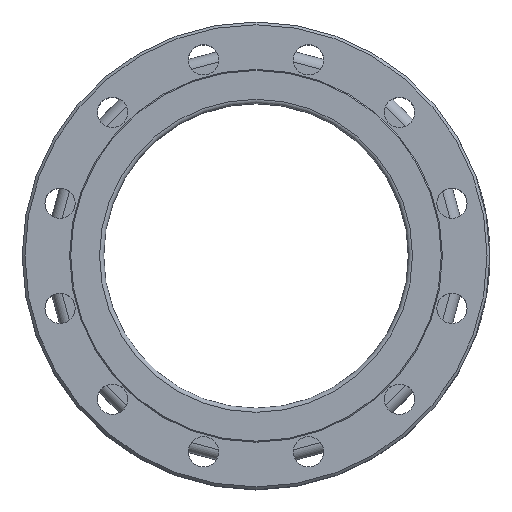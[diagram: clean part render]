
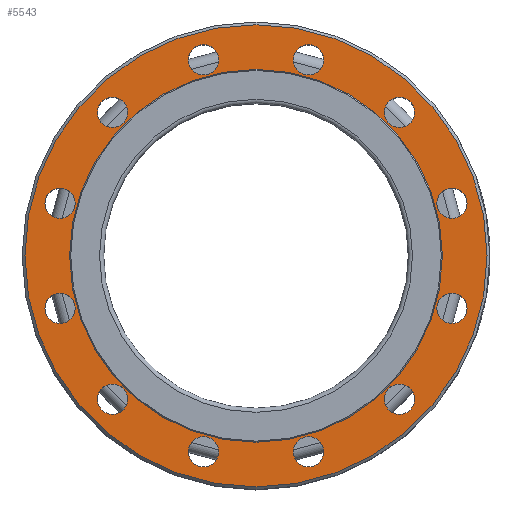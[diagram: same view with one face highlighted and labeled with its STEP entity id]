
A CAD part, top view. The second image highlights one B-rep face of the part: STEP entity #5543.
In plain terms, the highlighted planar face has unit normal (0, 0, 1).
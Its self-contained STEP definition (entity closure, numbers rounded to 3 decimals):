
#1110=FACE_BOUND('',#1738,.T.);
#1111=FACE_BOUND('',#1739,.T.);
#1112=FACE_BOUND('',#1740,.T.);
#1113=FACE_BOUND('',#1741,.T.);
#1114=FACE_BOUND('',#1742,.T.);
#1115=FACE_BOUND('',#1743,.T.);
#1116=FACE_BOUND('',#1744,.T.);
#1117=FACE_BOUND('',#1745,.T.);
#1118=FACE_BOUND('',#1746,.T.);
#1119=FACE_BOUND('',#1747,.T.);
#1120=FACE_BOUND('',#1748,.T.);
#1121=FACE_BOUND('',#1749,.T.);
#1122=FACE_BOUND('',#1750,.T.);
#1410=FACE_OUTER_BOUND('',#1737,.T.);
#1737=EDGE_LOOP('',(#4597));
#1738=EDGE_LOOP('',(#4598));
#1739=EDGE_LOOP('',(#4599));
#1740=EDGE_LOOP('',(#4600));
#1741=EDGE_LOOP('',(#4601));
#1742=EDGE_LOOP('',(#4602));
#1743=EDGE_LOOP('',(#4603));
#1744=EDGE_LOOP('',(#4604));
#1745=EDGE_LOOP('',(#4605));
#1746=EDGE_LOOP('',(#4606));
#1747=EDGE_LOOP('',(#4607));
#1748=EDGE_LOOP('',(#4608));
#1749=EDGE_LOOP('',(#4609));
#1750=EDGE_LOOP('',(#4610));
#2003=CIRCLE('',#5945,168.);
#2004=CIRCLE('',#5948,135.5);
#2005=CIRCLE('',#5949,11.);
#2006=CIRCLE('',#5950,11.);
#2007=CIRCLE('',#5951,11.);
#2008=CIRCLE('',#5952,11.);
#2009=CIRCLE('',#5953,11.);
#2010=CIRCLE('',#5954,11.);
#2011=CIRCLE('',#5955,11.);
#2012=CIRCLE('',#5956,11.);
#2013=CIRCLE('',#5957,11.);
#2014=CIRCLE('',#5958,11.);
#2015=CIRCLE('',#5959,11.);
#2016=CIRCLE('',#5960,11.);
#2529=VERTEX_POINT('',#12015);
#2530=VERTEX_POINT('',#12020);
#2531=VERTEX_POINT('',#12022);
#2532=VERTEX_POINT('',#12024);
#2533=VERTEX_POINT('',#12026);
#2534=VERTEX_POINT('',#12028);
#2535=VERTEX_POINT('',#12030);
#2536=VERTEX_POINT('',#12032);
#2537=VERTEX_POINT('',#12034);
#2538=VERTEX_POINT('',#12036);
#2539=VERTEX_POINT('',#12038);
#2540=VERTEX_POINT('',#12040);
#2541=VERTEX_POINT('',#12042);
#2542=VERTEX_POINT('',#12044);
#3231=EDGE_CURVE('',#2529,#2529,#2003,.T.);
#3233=EDGE_CURVE('',#2530,#2530,#2004,.T.);
#3234=EDGE_CURVE('',#2531,#2531,#2005,.T.);
#3235=EDGE_CURVE('',#2532,#2532,#2006,.T.);
#3236=EDGE_CURVE('',#2533,#2533,#2007,.T.);
#3237=EDGE_CURVE('',#2534,#2534,#2008,.T.);
#3238=EDGE_CURVE('',#2535,#2535,#2009,.T.);
#3239=EDGE_CURVE('',#2536,#2536,#2010,.T.);
#3240=EDGE_CURVE('',#2537,#2537,#2011,.T.);
#3241=EDGE_CURVE('',#2538,#2538,#2012,.T.);
#3242=EDGE_CURVE('',#2539,#2539,#2013,.T.);
#3243=EDGE_CURVE('',#2540,#2540,#2014,.T.);
#3244=EDGE_CURVE('',#2541,#2541,#2015,.T.);
#3245=EDGE_CURVE('',#2542,#2542,#2016,.T.);
#4597=ORIENTED_EDGE('',*,*,#3231,.T.);
#4598=ORIENTED_EDGE('',*,*,#3233,.T.);
#4599=ORIENTED_EDGE('',*,*,#3234,.F.);
#4600=ORIENTED_EDGE('',*,*,#3235,.F.);
#4601=ORIENTED_EDGE('',*,*,#3236,.F.);
#4602=ORIENTED_EDGE('',*,*,#3237,.F.);
#4603=ORIENTED_EDGE('',*,*,#3238,.F.);
#4604=ORIENTED_EDGE('',*,*,#3239,.F.);
#4605=ORIENTED_EDGE('',*,*,#3240,.F.);
#4606=ORIENTED_EDGE('',*,*,#3241,.F.);
#4607=ORIENTED_EDGE('',*,*,#3242,.F.);
#4608=ORIENTED_EDGE('',*,*,#3243,.F.);
#4609=ORIENTED_EDGE('',*,*,#3244,.F.);
#4610=ORIENTED_EDGE('',*,*,#3245,.F.);
#4919=PLANE('',#5947);
#5543=ADVANCED_FACE('',(#1410,#1110,#1111,#1112,#1113,#1114,#1115,#1116,
#1117,#1118,#1119,#1120,#1121,#1122),#4919,.F.);
#5945=AXIS2_PLACEMENT_3D('',#12016,#7037,#7038);
#5947=AXIS2_PLACEMENT_3D('',#12019,#7042,#7043);
#5948=AXIS2_PLACEMENT_3D('',#12021,#7044,#7045);
#5949=AXIS2_PLACEMENT_3D('',#12023,#7046,#7047);
#5950=AXIS2_PLACEMENT_3D('',#12025,#7048,#7049);
#5951=AXIS2_PLACEMENT_3D('',#12027,#7050,#7051);
#5952=AXIS2_PLACEMENT_3D('',#12029,#7052,#7053);
#5953=AXIS2_PLACEMENT_3D('',#12031,#7054,#7055);
#5954=AXIS2_PLACEMENT_3D('',#12033,#7056,#7057);
#5955=AXIS2_PLACEMENT_3D('',#12035,#7058,#7059);
#5956=AXIS2_PLACEMENT_3D('',#12037,#7060,#7061);
#5957=AXIS2_PLACEMENT_3D('',#12039,#7062,#7063);
#5958=AXIS2_PLACEMENT_3D('',#12041,#7064,#7065);
#5959=AXIS2_PLACEMENT_3D('',#12043,#7066,#7067);
#5960=AXIS2_PLACEMENT_3D('',#12045,#7068,#7069);
#7037=DIRECTION('center_axis',(0.,0.,1.));
#7038=DIRECTION('ref_axis',(0.,-1.,0.));
#7042=DIRECTION('center_axis',(0.,0.,-1.));
#7043=DIRECTION('ref_axis',(-1.,0.,0.));
#7044=DIRECTION('center_axis',(0.,0.,-1.));
#7045=DIRECTION('ref_axis',(1.,0.,0.));
#7046=DIRECTION('center_axis',(0.,0.,1.));
#7047=DIRECTION('ref_axis',(-1.,0.,0.));
#7048=DIRECTION('center_axis',(0.,0.,1.));
#7049=DIRECTION('ref_axis',(-1.,0.,0.));
#7050=DIRECTION('center_axis',(0.,0.,1.));
#7051=DIRECTION('ref_axis',(-1.,0.,0.));
#7052=DIRECTION('center_axis',(0.,0.,1.));
#7053=DIRECTION('ref_axis',(-1.,0.,0.));
#7054=DIRECTION('center_axis',(0.,0.,1.));
#7055=DIRECTION('ref_axis',(-1.,0.,0.));
#7056=DIRECTION('center_axis',(0.,0.,1.));
#7057=DIRECTION('ref_axis',(-1.,0.,0.));
#7058=DIRECTION('center_axis',(0.,0.,1.));
#7059=DIRECTION('ref_axis',(-1.,0.,0.));
#7060=DIRECTION('center_axis',(0.,0.,1.));
#7061=DIRECTION('ref_axis',(-1.,0.,0.));
#7062=DIRECTION('center_axis',(0.,0.,1.));
#7063=DIRECTION('ref_axis',(-1.,0.,0.));
#7064=DIRECTION('center_axis',(0.,0.,1.));
#7065=DIRECTION('ref_axis',(-1.,0.,0.));
#7066=DIRECTION('center_axis',(0.,0.,1.));
#7067=DIRECTION('ref_axis',(-1.,0.,0.));
#7068=DIRECTION('center_axis',(0.,0.,1.));
#7069=DIRECTION('ref_axis',(-1.,0.,0.));
#12015=CARTESIAN_POINT('',(0.,168.,70.));
#12016=CARTESIAN_POINT('Origin',(0.,0.,70.));
#12019=CARTESIAN_POINT('Origin',(0.,110.75,70.));
#12020=CARTESIAN_POINT('',(-135.5,0.,70.));
#12021=CARTESIAN_POINT('Origin',(0.,0.,70.));
#12022=CARTESIAN_POINT('',(-93.298,-104.298,70.));
#12023=CARTESIAN_POINT('Origin',(-104.298,-104.298,70.));
#12024=CARTESIAN_POINT('',(49.176,-142.474,70.));
#12025=CARTESIAN_POINT('Origin',(38.176,-142.474,70.));
#12026=CARTESIAN_POINT('',(115.298,104.298,70.));
#12027=CARTESIAN_POINT('Origin',(104.298,104.298,70.));
#12028=CARTESIAN_POINT('',(-93.298,104.298,70.));
#12029=CARTESIAN_POINT('Origin',(-104.298,104.298,70.));
#12030=CARTESIAN_POINT('',(-27.176,142.474,70.));
#12031=CARTESIAN_POINT('Origin',(-38.176,142.474,70.));
#12032=CARTESIAN_POINT('',(115.298,-104.298,70.));
#12033=CARTESIAN_POINT('Origin',(104.298,-104.298,70.));
#12034=CARTESIAN_POINT('',(-131.474,-38.176,70.));
#12035=CARTESIAN_POINT('Origin',(-142.474,-38.176,70.));
#12036=CARTESIAN_POINT('',(-27.176,-142.474,70.));
#12037=CARTESIAN_POINT('Origin',(-38.176,-142.474,70.));
#12038=CARTESIAN_POINT('',(153.474,38.176,70.));
#12039=CARTESIAN_POINT('Origin',(142.474,38.176,70.));
#12040=CARTESIAN_POINT('',(-131.474,38.176,70.));
#12041=CARTESIAN_POINT('Origin',(-142.474,38.176,70.));
#12042=CARTESIAN_POINT('',(49.176,142.474,70.));
#12043=CARTESIAN_POINT('Origin',(38.176,142.474,70.));
#12044=CARTESIAN_POINT('',(153.474,-38.176,70.));
#12045=CARTESIAN_POINT('Origin',(142.474,-38.176,70.));
